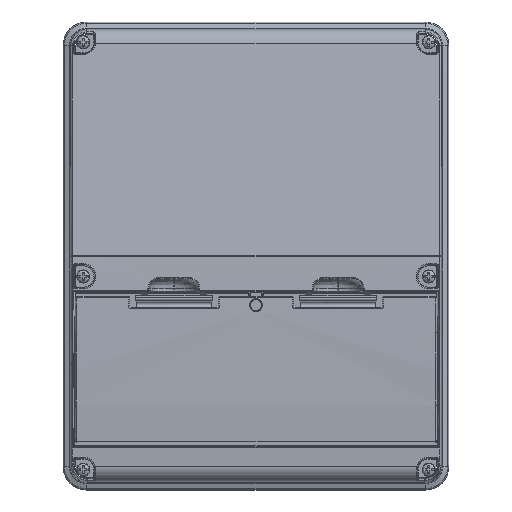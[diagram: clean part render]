
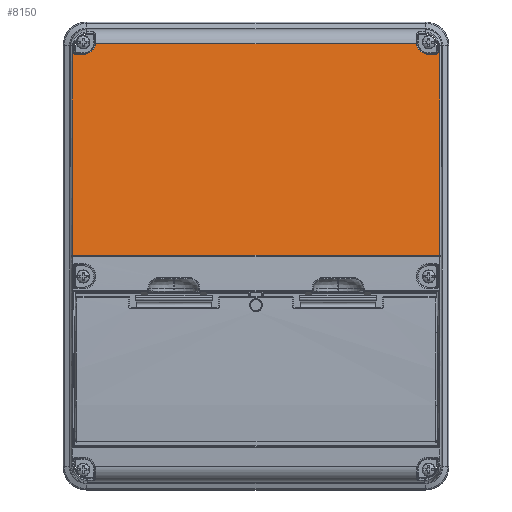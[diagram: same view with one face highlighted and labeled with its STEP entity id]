
A CAD part, top view. The second image highlights one B-rep face of the part: STEP entity #8150.
In plain terms, the highlighted planar face has unit normal (0, 0.122, 0.993).
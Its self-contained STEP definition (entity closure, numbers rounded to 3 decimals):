
#316=B_SPLINE_CURVE_WITH_KNOTS('',3,(#23748,#23749,#23750,#23751,#23752,
#23753,#23754,#23755,#23756,#23757,#23758,#23759,#23760,#23761,#23762,#23763,
#23764,#23765,#23766,#23767,#23768),.UNSPECIFIED.,.F.,.F.,(4,1,1,1,1,1,
1,1,1,1,1,1,1,1,1,1,1,1,4),(0.,0.018,0.035,0.068,
0.128,0.179,0.223,0.297,
0.361,0.47,0.568,0.662,
0.76,0.813,0.87,0.933,
0.983,0.991,1.),.UNSPECIFIED.);
#317=B_SPLINE_CURVE_WITH_KNOTS('',3,(#23773,#23774,#23775,#23776,#23777,
#23778,#23779,#23780,#23781,#23782),.UNSPECIFIED.,.F.,.F.,(4,1,1,1,1,1,
1,4),(0.,0.072,0.231,0.386,0.539,
0.69,0.843,1.),.UNSPECIFIED.);
#1298=PLANE('',#17863);
#1479=ELLIPSE('',#17857,1.513,1.5);
#1480=ELLIPSE('',#17858,7.897,7.838);
#1481=ELLIPSE('',#17859,7.897,7.838);
#1482=ELLIPSE('',#17860,1.513,1.5);
#1483=ELLIPSE('',#17861,7.593,7.536);
#1484=ELLIPSE('',#17862,7.593,7.536);
#1836=FACE_OUTER_BOUND('',#8983,.T.);
#2326=LINE('',#23364,#3195);
#2365=LINE('',#23647,#3234);
#2369=LINE('',#23739,#3238);
#2370=LINE('',#23744,#3239);
#2371=LINE('',#23769,#3240);
#2372=LINE('',#23771,#3241);
#2373=LINE('',#23786,#3242);
#2374=LINE('',#23790,#3243);
#3195=VECTOR('',#19368,1.);
#3234=VECTOR('',#19559,1.);
#3238=VECTOR('',#19569,1.);
#3239=VECTOR('',#19572,1.);
#3240=VECTOR('',#19575,1.);
#3241=VECTOR('',#19576,1.);
#3242=VECTOR('',#19579,1.);
#3243=VECTOR('',#19582,1.);
#8150=ADVANCED_FACE('',(#1836),#1298,.T.);
#8983=EDGE_LOOP('',(#9828,#9829,#9830,#9831,#9832,#9833,#9834,#9835,#9836,
#9837,#9838,#9839,#9840,#9841,#9842,#9843));
#9828=ORIENTED_EDGE('',*,*,#14740,.T.);
#9829=ORIENTED_EDGE('',*,*,#14741,.T.);
#9830=ORIENTED_EDGE('',*,*,#14742,.T.);
#9831=ORIENTED_EDGE('',*,*,#14743,.T.);
#9832=ORIENTED_EDGE('',*,*,#14744,.T.);
#9833=ORIENTED_EDGE('',*,*,#14629,.F.);
#9834=ORIENTED_EDGE('',*,*,#14745,.T.);
#9835=ORIENTED_EDGE('',*,*,#14746,.T.);
#9836=ORIENTED_EDGE('',*,*,#14747,.F.);
#9837=ORIENTED_EDGE('',*,*,#14748,.T.);
#9838=ORIENTED_EDGE('',*,*,#14749,.T.);
#9839=ORIENTED_EDGE('',*,*,#14750,.T.);
#9840=ORIENTED_EDGE('',*,*,#14751,.F.);
#9841=ORIENTED_EDGE('',*,*,#14752,.F.);
#9842=ORIENTED_EDGE('',*,*,#14728,.F.);
#9843=ORIENTED_EDGE('',*,*,#14753,.T.);
#12822=VERTEX_POINT('',#23363);
#12823=VERTEX_POINT('',#23365);
#12908=VERTEX_POINT('',#23648);
#12909=VERTEX_POINT('',#23649);
#12920=VERTEX_POINT('',#23740);
#12921=VERTEX_POINT('',#23741);
#12922=VERTEX_POINT('',#23743);
#12923=VERTEX_POINT('',#23745);
#12924=VERTEX_POINT('',#23747);
#12925=VERTEX_POINT('',#23770);
#12926=VERTEX_POINT('',#23772);
#12927=VERTEX_POINT('',#23783);
#12928=VERTEX_POINT('',#23785);
#12929=VERTEX_POINT('',#23787);
#12930=VERTEX_POINT('',#23789);
#12931=VERTEX_POINT('',#23791);
#14629=EDGE_CURVE('',#12822,#12823,#2326,.T.);
#14728=EDGE_CURVE('',#12908,#12909,#2365,.T.);
#14740=EDGE_CURVE('',#12920,#12921,#2369,.T.);
#14741=EDGE_CURVE('',#12921,#12922,#1479,.T.);
#14742=EDGE_CURVE('',#12922,#12923,#2370,.T.);
#14743=EDGE_CURVE('',#12923,#12924,#1480,.T.);
#14744=EDGE_CURVE('',#12924,#12823,#316,.T.);
#14745=EDGE_CURVE('',#12822,#12925,#2371,.T.);
#14746=EDGE_CURVE('',#12925,#12926,#2372,.T.);
#14747=EDGE_CURVE('',#12927,#12926,#317,.T.);
#14748=EDGE_CURVE('',#12927,#12928,#1481,.T.);
#14749=EDGE_CURVE('',#12928,#12929,#2373,.T.);
#14750=EDGE_CURVE('',#12929,#12930,#1482,.T.);
#14751=EDGE_CURVE('',#12931,#12930,#2374,.T.);
#14752=EDGE_CURVE('',#12909,#12931,#1483,.T.);
#14753=EDGE_CURVE('',#12908,#12920,#1484,.T.);
#17857=AXIS2_PLACEMENT_3D('',#23742,#19570,#19571);
#17858=AXIS2_PLACEMENT_3D('',#23746,#19573,#19574);
#17859=AXIS2_PLACEMENT_3D('',#23784,#19577,#19578);
#17860=AXIS2_PLACEMENT_3D('',#23788,#19580,#19581);
#17861=AXIS2_PLACEMENT_3D('',#23792,#19583,#19584);
#17862=AXIS2_PLACEMENT_3D('',#23793,#19585,#19586);
#17863=AXIS2_PLACEMENT_3D('',#23794,#19587,#19588);
#19368=DIRECTION('',(-0.002,0.993,-0.122));
#19559=DIRECTION('',(1.,0.,0.));
#19569=DIRECTION('',(-1.,0.,0.));
#19570=DIRECTION('',(0.,-0.122,-0.993));
#19571=DIRECTION('',(-0.067,-0.99,0.122));
#19572=DIRECTION('',(0.001,0.993,-0.122));
#19573=DIRECTION('',(0.,-0.122,-0.993));
#19574=DIRECTION('',(0.,-0.993,0.122));
#19575=DIRECTION('',(1.,0.,0.));
#19576=DIRECTION('',(0.002,0.993,-0.122));
#19577=DIRECTION('',(0.,-0.122,-0.993));
#19578=DIRECTION('',(0.,-0.993,0.122));
#19579=DIRECTION('',(0.001,-0.993,0.122));
#19580=DIRECTION('',(0.,-0.122,-0.993));
#19581=DIRECTION('',(-0.067,0.99,-0.122));
#19582=DIRECTION('',(1.,0.,0.));
#19583=DIRECTION('',(0.,0.122,0.993));
#19584=DIRECTION('',(0.,-0.993,0.122));
#19585=DIRECTION('',(0.,-0.122,-0.993));
#19586=DIRECTION('',(0.,-0.993,0.122));
#19587=DIRECTION('',(0.,0.122,0.993));
#19588=DIRECTION('',(0.,-0.993,0.122));
#23363=CARTESIAN_POINT('',(-111.544,0.264,38.577));
#23364=CARTESIAN_POINT('',(-111.544,0.264,38.577));
#23365=CARTESIAN_POINT('',(-111.817,127.941,22.901));
#23647=CARTESIAN_POINT('',(-97.739,129.193,22.747));
#23648=CARTESIAN_POINT('',(-97.739,129.193,22.747));
#23649=CARTESIAN_POINT('',(97.739,129.193,22.747));
#23739=CARTESIAN_POINT('',(-105.2,122.717,23.542));
#23740=CARTESIAN_POINT('',(-105.2,122.717,23.542));
#23741=CARTESIAN_POINT('',(-109.544,122.717,23.542));
#23742=CARTESIAN_POINT('',(-109.543,124.218,23.358));
#23743=CARTESIAN_POINT('',(-111.043,124.218,23.358));
#23744=CARTESIAN_POINT('',(-111.043,124.218,23.358));
#23745=CARTESIAN_POINT('',(-111.038,128.261,22.861));
#23746=CARTESIAN_POINT('',(-103.2,128.253,22.862));
#23747=CARTESIAN_POINT('',(-110.847,129.976,22.651));
#23748=CARTESIAN_POINT('',(-102.975,129.193,22.747));
#23749=CARTESIAN_POINT('',(-103.012,129.193,22.747));
#23750=CARTESIAN_POINT('',(-103.085,129.195,22.747));
#23751=CARTESIAN_POINT('',(-103.232,129.202,22.746));
#23752=CARTESIAN_POINT('',(-103.463,129.226,22.743));
#23753=CARTESIAN_POINT('',(-103.769,129.283,22.736));
#23754=CARTESIAN_POINT('',(-104.104,129.375,22.725));
#23755=CARTESIAN_POINT('',(-104.485,129.503,22.709));
#23756=CARTESIAN_POINT('',(-104.922,129.679,22.687));
#23757=CARTESIAN_POINT('',(-105.582,129.966,22.652));
#23758=CARTESIAN_POINT('',(-106.428,130.325,22.608));
#23759=CARTESIAN_POINT('',(-107.576,130.659,22.567));
#23760=CARTESIAN_POINT('',(-108.835,130.769,22.553));
#23761=CARTESIAN_POINT('',(-109.936,130.545,22.581));
#23762=CARTESIAN_POINT('',(-110.76,130.084,22.637));
#23763=CARTESIAN_POINT('',(-111.324,129.542,22.704));
#23764=CARTESIAN_POINT('',(-111.688,128.872,22.786));
#23765=CARTESIAN_POINT('',(-111.799,128.347,22.851));
#23766=CARTESIAN_POINT('',(-111.816,128.049,22.887));
#23767=CARTESIAN_POINT('',(-111.818,127.978,22.896));
#23768=CARTESIAN_POINT('',(-111.817,127.941,22.901));
#23769=CARTESIAN_POINT('',(-111.544,0.264,38.577));
#23770=CARTESIAN_POINT('',(111.544,0.264,38.577));
#23771=CARTESIAN_POINT('',(111.544,0.264,38.577));
#23772=CARTESIAN_POINT('',(111.817,127.941,22.901));
#23773=CARTESIAN_POINT('',(110.847,129.976,22.651));
#23774=CARTESIAN_POINT('',(110.886,129.944,22.655));
#23775=CARTESIAN_POINT('',(111.009,129.838,22.668));
#23776=CARTESIAN_POINT('',(111.205,129.637,22.692));
#23777=CARTESIAN_POINT('',(111.415,129.355,22.727));
#23778=CARTESIAN_POINT('',(111.588,129.041,22.765));
#23779=CARTESIAN_POINT('',(111.718,128.698,22.808));
#23780=CARTESIAN_POINT('',(111.8,128.328,22.853));
#23781=CARTESIAN_POINT('',(111.818,128.07,22.885));
#23782=CARTESIAN_POINT('',(111.817,127.941,22.901));
#23783=CARTESIAN_POINT('',(110.847,129.976,22.651));
#23784=CARTESIAN_POINT('',(103.2,128.253,22.862));
#23785=CARTESIAN_POINT('',(111.038,128.261,22.861));
#23786=CARTESIAN_POINT('',(111.043,124.218,23.358));
#23787=CARTESIAN_POINT('',(111.043,124.218,23.358));
#23788=CARTESIAN_POINT('',(109.543,124.218,23.358));
#23789=CARTESIAN_POINT('',(109.544,122.717,23.542));
#23790=CARTESIAN_POINT('',(105.2,122.717,23.542));
#23791=CARTESIAN_POINT('',(105.2,122.717,23.542));
#23792=CARTESIAN_POINT('',(105.2,130.253,22.617));
#23793=CARTESIAN_POINT('',(-105.2,130.253,22.617));
#23794=CARTESIAN_POINT('',(111.831,0.251,38.579));
